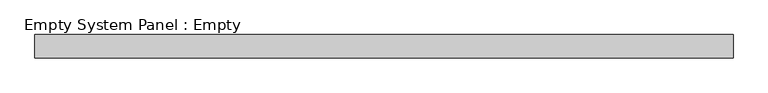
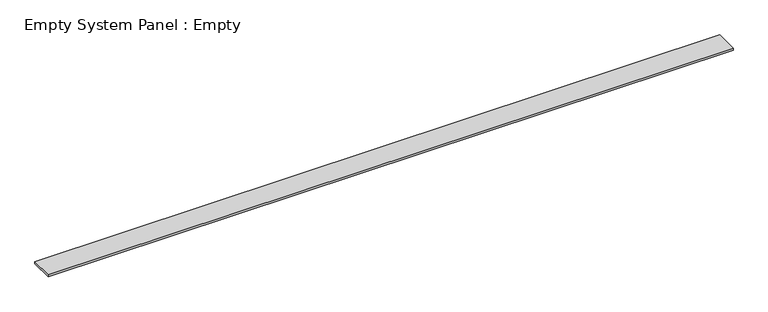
"""IFC4 building model written with IfcOpenShell, lengths in millimetres: plate geometry, Empty System Panel : Empty."""

from ifc_helpers import new_model, si_unit, origin, origin_with_axes, place, context, project, spatial, polyline, outline, extrude, source, transform, mapped, element, save


def empty_system_panel_empty_a2c5d73e(model_context):
    return source(origin(), model_context, "Body", "SweptSolid", [
        extrude(outline(polyline([(1500.0, -50.0), (-1500.0, -50.0), (-1500.0, 50.0), (1500.0, 50.0), (1500.0, -50.0)])), origin_with_axes(), (0.0, 0.0, 1.0), 9.6949135),
    ])


if __name__ == "__main__":
    model = new_model("IFC4")
    model_context = context("Model", 3, world=origin())
    ifc_project = project(units=[si_unit("LENGTHUNIT", "METRE", prefix="MILLI")], contexts=[model_context])
    site = spatial("IfcSite", under=ifc_project)
    building = spatial("IfcBuilding", under=site)
    placement = place(None, origin())
    empty_system_panel_empty_shape = empty_system_panel_empty_a2c5d73e(model_context)
    element("IfcPlate", 1, ObjectType="Empty System Panel : Empty", at=placement, inside=building, context=model_context, shape_type="MappedRepresentation", body=[
        mapped(empty_system_panel_empty_shape, transform((0.0, 0.0, 0.0), x_axis=(1.0, 0.0, 0.0), y_axis=(0.0, 1.0, 0.0), z_axis=(0.0, 0.0, 1.0))),
    ])
    save(model, "model.ifc")
